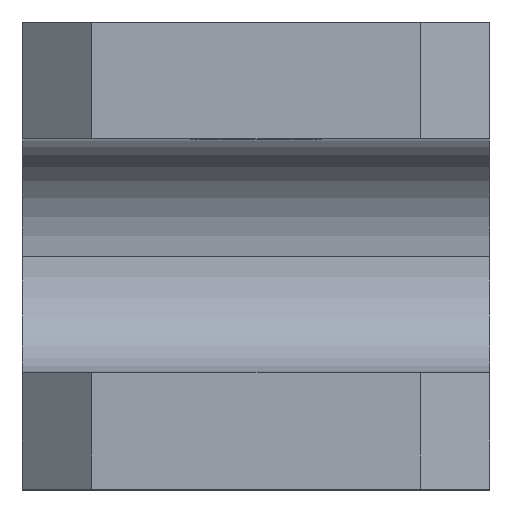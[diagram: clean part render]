
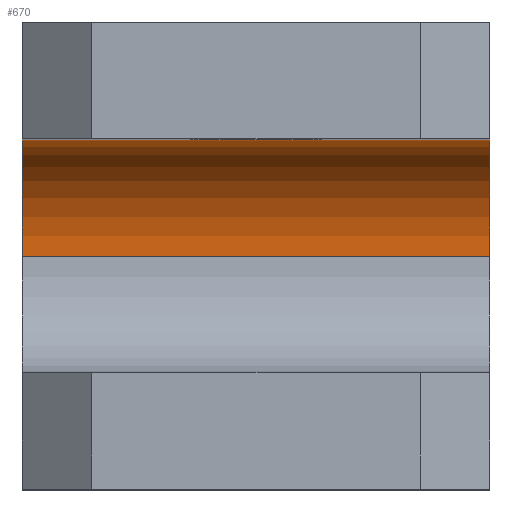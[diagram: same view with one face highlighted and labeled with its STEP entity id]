
A CAD part, top view. The second image highlights one B-rep face of the part: STEP entity #670.
In plain terms, the highlighted cylindrical face has radius 4 mm (diameter 8 mm), a partial arc.
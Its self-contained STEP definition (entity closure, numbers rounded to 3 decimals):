
#61 = AXIS2_PLACEMENT_3D ( 'NONE', #1336, #1338, #1334 ) ;
#70 = AXIS2_PLACEMENT_3D ( 'NONE', #605, #603, #598 ) ;
#73 = EDGE_CURVE ( 'NONE', #956, #950, #911, .T. ) ;
#95 = AXIS2_PLACEMENT_3D ( 'NONE', #1356, #1353, #1349 ) ;
#96 = EDGE_CURVE ( 'NONE', #928, #936, #908, .T. ) ;
#105 = EDGE_CURVE ( 'NONE', #936, #950, #900, .T. ) ;
#138 = EDGE_CURVE ( 'NONE', #928, #956, #386, .T. ) ;
#318 = ORIENTED_EDGE ( 'NONE', *, *, #138, .T. ) ;
#324 = ORIENTED_EDGE ( 'NONE', *, *, #73, .T. ) ;
#386 = CIRCLE ( 'NONE', #95, 4. ) ;
#500 = CYLINDRICAL_SURFACE ( 'NONE', #70, 4. ) ;
#508 = FACE_OUTER_BOUND ( 'NONE', #717, .T. ) ;
#598 = DIRECTION ( 'NONE',  ( 0., 0., -1. ) ) ;
#603 = DIRECTION ( 'NONE',  ( 1., 0., 0. ) ) ;
#605 = CARTESIAN_POINT ( 'NONE',  ( -8., -4., 24.5 ) ) ;
#670 = ADVANCED_FACE ( 'NONE', ( #508 ), #500, .F. ) ;
#717 = EDGE_LOOP ( 'NONE', ( #318, #324, #779, #791 ) ) ;
#779 = ORIENTED_EDGE ( 'NONE', *, *, #105, .F. ) ;
#791 = ORIENTED_EDGE ( 'NONE', *, *, #96, .F. ) ;
#900 = CIRCLE ( 'NONE', #61, 4. ) ;
#908 = LINE ( 'NONE', #1333, #912 ) ;
#911 = LINE ( 'NONE', #1297, #913 ) ;
#912 = VECTOR ( 'NONE', #1329, 1000. ) ;
#913 = VECTOR ( 'NONE', #1291, 1000. ) ;
#928 = VERTEX_POINT ( 'NONE', #1103 ) ;
#936 = VERTEX_POINT ( 'NONE', #1107 ) ;
#950 = VERTEX_POINT ( 'NONE', #1114 ) ;
#956 = VERTEX_POINT ( 'NONE', #1117 ) ;
#1103 = CARTESIAN_POINT ( 'NONE',  ( -8., 0., 24.5 ) ) ;
#1107 = CARTESIAN_POINT ( 'NONE',  ( 8., 0., 24.5 ) ) ;
#1114 = CARTESIAN_POINT ( 'NONE',  ( 8., -4., 20.5 ) ) ;
#1117 = CARTESIAN_POINT ( 'NONE',  ( -8., -4., 20.5 ) ) ;
#1291 = DIRECTION ( 'NONE',  ( 1., 0., 0. ) ) ;
#1297 = CARTESIAN_POINT ( 'NONE',  ( -8., -4., 20.5 ) ) ;
#1329 = DIRECTION ( 'NONE',  ( 1., 0., 0. ) ) ;
#1333 = CARTESIAN_POINT ( 'NONE',  ( -8., 0., 24.5 ) ) ;
#1334 = DIRECTION ( 'NONE',  ( 0., 0., -1. ) ) ;
#1336 = CARTESIAN_POINT ( 'NONE',  ( 8., -4., 24.5 ) ) ;
#1338 = DIRECTION ( 'NONE',  ( -1., 0., 0. ) ) ;
#1349 = DIRECTION ( 'NONE',  ( 0., 0., -1. ) ) ;
#1353 = DIRECTION ( 'NONE',  ( -1., 0., 0. ) ) ;
#1356 = CARTESIAN_POINT ( 'NONE',  ( -8., -4., 24.5 ) ) ;
